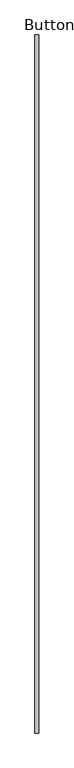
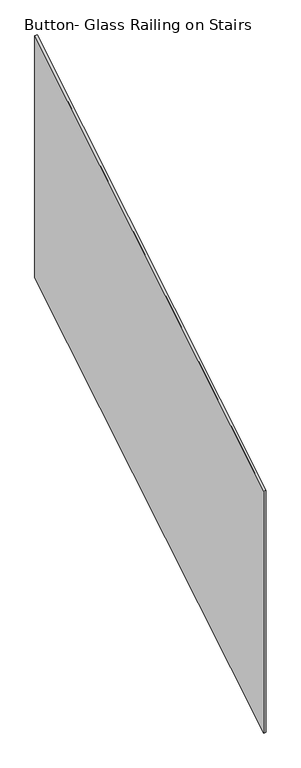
"""IFC4 building model written with IfcOpenShell, lengths in millimetres: railing geometry, Button- Glass Railing on Stairs."""

from ifc_helpers import new_model, si_unit, frame, origin, place, context, project, spatial, polyline, outline, extrude, source, transform, mapped, element, save


def button_glass_railing_on_stairs_c400c547(model_context):
    return source(origin(), model_context, "Body", "SweptSolid", [
        extrude(outline(polyline([(2194.3994253, -191.6520778), (2194.3994253, 1248.8333333), (4429.5994253, 2603.5), (4429.5994253, 1163.0145889), (2194.3994253, -191.6520778)])), frame((3612.809387, 0.0, 0.0), z_axis=(1.0, 0.0, 0.0), x_axis=(0.0, 1.0, 0.0)), (0.0, 0.0, 1.0), 12.7),
    ])


if __name__ == "__main__":
    model = new_model("IFC4")
    model_context = context("Model", 3, world=origin())
    ifc_project = project(units=[si_unit("LENGTHUNIT", "METRE", prefix="MILLI")], contexts=[model_context])
    site = spatial("IfcSite", under=ifc_project)
    building = spatial("IfcBuilding", under=site)
    placement = place(None, origin())
    button_glass_railing_on_stairs_shape = button_glass_railing_on_stairs_c400c547(model_context)
    element("IfcRailing", 1, ObjectType="Button- Glass Railing on Stairs", at=placement, inside=building, context=model_context, shape_type="MappedRepresentation", body=[
        mapped(button_glass_railing_on_stairs_shape, transform((0.0, 0.0, 0.0), x_axis=(1.0, 0.0, 0.0), y_axis=(0.0, 1.0, 0.0), z_axis=(0.0, 0.0, 1.0))),
    ])
    save(model, "model.ifc")
